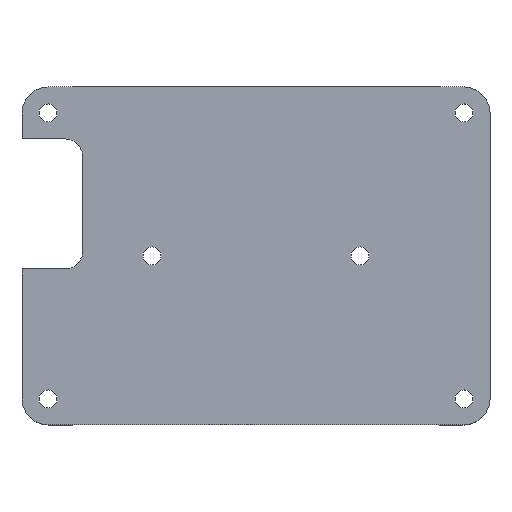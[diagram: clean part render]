
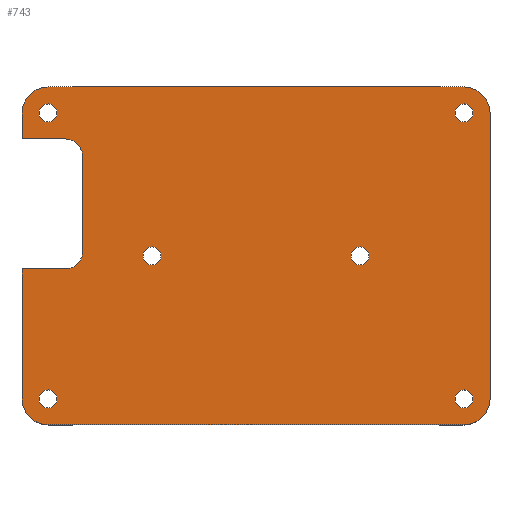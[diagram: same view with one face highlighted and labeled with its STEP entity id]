
A CAD part, top view. The second image highlights one B-rep face of the part: STEP entity #743.
In plain terms, the highlighted planar face has unit normal (0, 0, 1).
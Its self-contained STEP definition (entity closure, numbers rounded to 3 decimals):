
#19=FACE_BOUND('',#102,.T.);
#20=FACE_BOUND('',#103,.T.);
#21=FACE_BOUND('',#104,.T.);
#22=FACE_BOUND('',#105,.T.);
#23=FACE_BOUND('',#106,.T.);
#24=FACE_BOUND('',#107,.T.);
#31=PLANE('',#803);
#59=FACE_OUTER_BOUND('',#101,.T.);
#101=EDGE_LOOP('',(#553,#554,#555,#556,#557,#558,#559,#560,#561,#562,#563,
#564,#565,#566));
#102=EDGE_LOOP('',(#567));
#103=EDGE_LOOP('',(#568));
#104=EDGE_LOOP('',(#569));
#105=EDGE_LOOP('',(#570));
#106=EDGE_LOOP('',(#571));
#107=EDGE_LOOP('',(#572));
#159=LINE('',#1153,#235);
#160=LINE('',#1157,#236);
#161=LINE('',#1159,#237);
#162=LINE('',#1163,#238);
#163=LINE('',#1167,#239);
#164=LINE('',#1169,#240);
#165=LINE('',#1173,#241);
#166=LINE('',#1177,#242);
#235=VECTOR('',#929,10.);
#236=VECTOR('',#932,10.);
#237=VECTOR('',#933,10.);
#238=VECTOR('',#936,10.);
#239=VECTOR('',#939,10.);
#240=VECTOR('',#940,10.);
#241=VECTOR('',#943,10.);
#242=VECTOR('',#946,10.);
#289=CIRCLE('',#774,1.038);
#291=CIRCLE('',#777,1.038);
#293=CIRCLE('',#780,1.038);
#295=CIRCLE('',#783,1.038);
#297=CIRCLE('',#786,1.038);
#299=CIRCLE('',#789,1.038);
#309=CIRCLE('',#804,3.);
#310=CIRCLE('',#805,2.);
#311=CIRCLE('',#806,2.);
#312=CIRCLE('',#807,3.);
#313=CIRCLE('',#808,3.);
#314=CIRCLE('',#809,3.);
#321=VERTEX_POINT('',#1063);
#323=VERTEX_POINT('',#1069);
#325=VERTEX_POINT('',#1075);
#327=VERTEX_POINT('',#1081);
#329=VERTEX_POINT('',#1087);
#331=VERTEX_POINT('',#1093);
#357=VERTEX_POINT('',#1151);
#358=VERTEX_POINT('',#1152);
#359=VERTEX_POINT('',#1154);
#360=VERTEX_POINT('',#1156);
#361=VERTEX_POINT('',#1158);
#362=VERTEX_POINT('',#1160);
#363=VERTEX_POINT('',#1162);
#364=VERTEX_POINT('',#1164);
#365=VERTEX_POINT('',#1166);
#366=VERTEX_POINT('',#1168);
#367=VERTEX_POINT('',#1170);
#368=VERTEX_POINT('',#1172);
#369=VERTEX_POINT('',#1174);
#370=VERTEX_POINT('',#1176);
#393=EDGE_CURVE('',#321,#321,#289,.F.);
#396=EDGE_CURVE('',#323,#323,#291,.F.);
#399=EDGE_CURVE('',#325,#325,#293,.F.);
#402=EDGE_CURVE('',#327,#327,#295,.F.);
#405=EDGE_CURVE('',#329,#329,#297,.F.);
#408=EDGE_CURVE('',#331,#331,#299,.F.);
#435=EDGE_CURVE('',#357,#358,#159,.F.);
#436=EDGE_CURVE('',#358,#359,#309,.F.);
#437=EDGE_CURVE('',#359,#360,#160,.F.);
#438=EDGE_CURVE('',#360,#361,#161,.T.);
#439=EDGE_CURVE('',#361,#362,#310,.T.);
#440=EDGE_CURVE('',#362,#363,#162,.T.);
#441=EDGE_CURVE('',#363,#364,#311,.T.);
#442=EDGE_CURVE('',#364,#365,#163,.F.);
#443=EDGE_CURVE('',#365,#366,#164,.T.);
#444=EDGE_CURVE('',#366,#367,#312,.F.);
#445=EDGE_CURVE('',#367,#368,#165,.F.);
#446=EDGE_CURVE('',#368,#369,#313,.F.);
#447=EDGE_CURVE('',#369,#370,#166,.T.);
#448=EDGE_CURVE('',#370,#357,#314,.F.);
#553=ORIENTED_EDGE('',*,*,#435,.T.);
#554=ORIENTED_EDGE('',*,*,#436,.T.);
#555=ORIENTED_EDGE('',*,*,#437,.T.);
#556=ORIENTED_EDGE('',*,*,#438,.T.);
#557=ORIENTED_EDGE('',*,*,#439,.T.);
#558=ORIENTED_EDGE('',*,*,#440,.T.);
#559=ORIENTED_EDGE('',*,*,#441,.T.);
#560=ORIENTED_EDGE('',*,*,#442,.T.);
#561=ORIENTED_EDGE('',*,*,#443,.T.);
#562=ORIENTED_EDGE('',*,*,#444,.T.);
#563=ORIENTED_EDGE('',*,*,#445,.T.);
#564=ORIENTED_EDGE('',*,*,#446,.T.);
#565=ORIENTED_EDGE('',*,*,#447,.T.);
#566=ORIENTED_EDGE('',*,*,#448,.T.);
#567=ORIENTED_EDGE('',*,*,#393,.T.);
#568=ORIENTED_EDGE('',*,*,#396,.T.);
#569=ORIENTED_EDGE('',*,*,#399,.T.);
#570=ORIENTED_EDGE('',*,*,#402,.T.);
#571=ORIENTED_EDGE('',*,*,#405,.T.);
#572=ORIENTED_EDGE('',*,*,#408,.T.);
#743=ADVANCED_FACE('',(#59,#19,#20,#21,#22,#23,#24),#31,.F.);
#774=AXIS2_PLACEMENT_3D('',#1064,#847,#848);
#777=AXIS2_PLACEMENT_3D('',#1070,#854,#855);
#780=AXIS2_PLACEMENT_3D('',#1076,#861,#862);
#783=AXIS2_PLACEMENT_3D('',#1082,#868,#869);
#786=AXIS2_PLACEMENT_3D('',#1088,#875,#876);
#789=AXIS2_PLACEMENT_3D('',#1094,#882,#883);
#803=AXIS2_PLACEMENT_3D('',#1150,#927,#928);
#804=AXIS2_PLACEMENT_3D('',#1155,#930,#931);
#805=AXIS2_PLACEMENT_3D('',#1161,#934,#935);
#806=AXIS2_PLACEMENT_3D('',#1165,#937,#938);
#807=AXIS2_PLACEMENT_3D('',#1171,#941,#942);
#808=AXIS2_PLACEMENT_3D('',#1175,#944,#945);
#809=AXIS2_PLACEMENT_3D('',#1178,#947,#948);
#847=DIRECTION('center_axis',(0.,0.,1.));
#848=DIRECTION('ref_axis',(1.,0.,0.));
#854=DIRECTION('center_axis',(0.,0.,1.));
#855=DIRECTION('ref_axis',(1.,0.,0.));
#861=DIRECTION('center_axis',(0.,0.,1.));
#862=DIRECTION('ref_axis',(1.,0.,0.));
#868=DIRECTION('center_axis',(0.,0.,1.));
#869=DIRECTION('ref_axis',(1.,0.,0.));
#875=DIRECTION('center_axis',(0.,0.,1.));
#876=DIRECTION('ref_axis',(1.,0.,0.));
#882=DIRECTION('center_axis',(0.,0.,1.));
#883=DIRECTION('ref_axis',(1.,0.,0.));
#927=DIRECTION('center_axis',(0.,0.,-1.));
#928=DIRECTION('ref_axis',(0.,1.,0.));
#929=DIRECTION('',(1.,0.,0.));
#930=DIRECTION('center_axis',(0.,0.,-1.));
#931=DIRECTION('ref_axis',(0.,1.,0.));
#932=DIRECTION('',(0.,1.,0.));
#933=DIRECTION('',(1.,0.,0.));
#934=DIRECTION('center_axis',(0.,0.,-1.));
#935=DIRECTION('ref_axis',(0.,-1.,0.));
#936=DIRECTION('',(0.,-1.,0.));
#937=DIRECTION('center_axis',(0.,0.,-1.));
#938=DIRECTION('ref_axis',(0.,1.,0.));
#939=DIRECTION('',(1.,0.,0.));
#940=DIRECTION('',(0.,-1.,0.));
#941=DIRECTION('center_axis',(0.,0.,-1.));
#942=DIRECTION('ref_axis',(0.,1.,0.));
#943=DIRECTION('',(-1.,0.,0.));
#944=DIRECTION('center_axis',(0.,0.,-1.));
#945=DIRECTION('ref_axis',(0.,-1.,0.));
#946=DIRECTION('',(0.,1.,0.));
#947=DIRECTION('center_axis',(0.,0.,-1.));
#948=DIRECTION('ref_axis',(0.,-1.,0.));
#1063=CARTESIAN_POINT('',(22.962,-13.5,2.));
#1064=CARTESIAN_POINT('Origin',(24.,-13.5,2.));
#1069=CARTESIAN_POINT('',(-25.038,19.5,2.));
#1070=CARTESIAN_POINT('Origin',(-24.,19.5,2.));
#1075=CARTESIAN_POINT('',(22.962,19.5,2.));
#1076=CARTESIAN_POINT('Origin',(24.,19.5,2.));
#1081=CARTESIAN_POINT('',(-25.038,-13.5,2.));
#1082=CARTESIAN_POINT('Origin',(-24.,-13.5,2.));
#1087=CARTESIAN_POINT('',(-13.038,3.,2.));
#1088=CARTESIAN_POINT('Origin',(-12.,3.,2.));
#1093=CARTESIAN_POINT('',(10.962,3.,2.));
#1094=CARTESIAN_POINT('Origin',(12.,3.,2.));
#1150=CARTESIAN_POINT('Origin',(-27.,19.2,2.));
#1151=CARTESIAN_POINT('',(24.,22.5,2.));
#1152=CARTESIAN_POINT('',(-24.,22.5,2.));
#1153=CARTESIAN_POINT('',(-13.5,22.5,2.));
#1154=CARTESIAN_POINT('',(-27.,19.5,2.));
#1155=CARTESIAN_POINT('Origin',(-24.,19.5,2.));
#1156=CARTESIAN_POINT('',(-27.,16.5,2.));
#1157=CARTESIAN_POINT('',(-27.,11.1,2.));
#1158=CARTESIAN_POINT('',(-22.,16.5,2.));
#1159=CARTESIAN_POINT('',(-13.5,16.5,2.));
#1160=CARTESIAN_POINT('',(-20.,14.5,2.));
#1161=CARTESIAN_POINT('Origin',(-22.,14.5,2.));
#1162=CARTESIAN_POINT('',(-20.,3.5,2.));
#1163=CARTESIAN_POINT('',(-20.,11.1,2.));
#1164=CARTESIAN_POINT('',(-22.,1.5,2.));
#1165=CARTESIAN_POINT('Origin',(-22.,3.5,2.));
#1166=CARTESIAN_POINT('',(-27.,1.5,2.));
#1167=CARTESIAN_POINT('',(-13.5,1.5,2.));
#1168=CARTESIAN_POINT('',(-27.,-13.5,2.));
#1169=CARTESIAN_POINT('',(-27.,11.1,2.));
#1170=CARTESIAN_POINT('',(-24.,-16.5,2.));
#1171=CARTESIAN_POINT('Origin',(-24.,-13.5,2.));
#1172=CARTESIAN_POINT('',(24.,-16.5,2.));
#1173=CARTESIAN_POINT('',(-13.5,-16.5,2.));
#1174=CARTESIAN_POINT('',(27.,-13.5,2.));
#1175=CARTESIAN_POINT('Origin',(24.,-13.5,2.));
#1176=CARTESIAN_POINT('',(27.,19.5,2.));
#1177=CARTESIAN_POINT('',(27.,11.1,2.));
#1178=CARTESIAN_POINT('Origin',(24.,19.5,2.));
